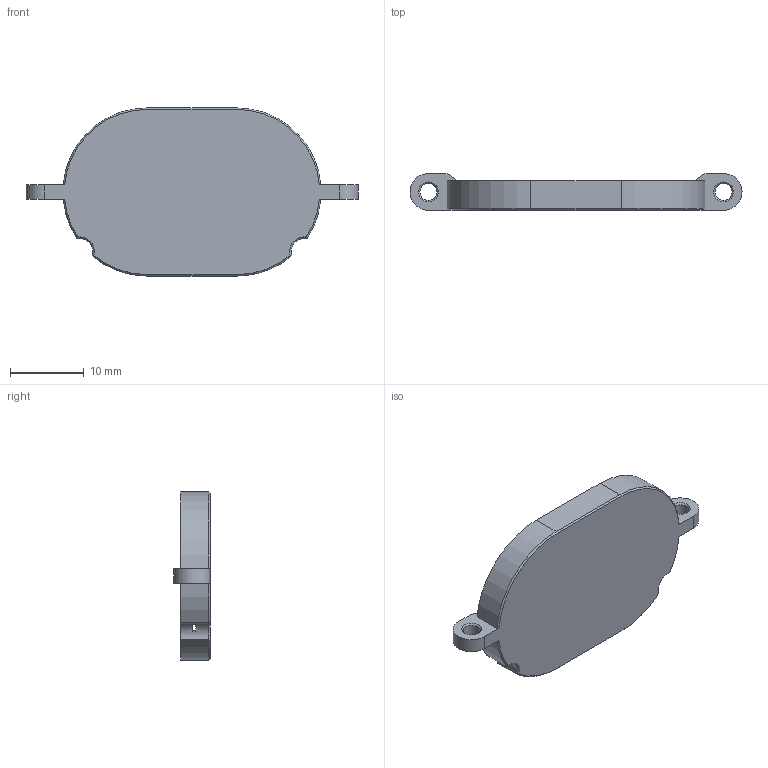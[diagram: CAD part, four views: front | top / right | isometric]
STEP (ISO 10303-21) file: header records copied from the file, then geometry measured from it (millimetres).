
FILE_DESCRIPTION(/* description */ (''),/* implementation_level */ '2;1');
FILE_NAME(/* name */ 'cast_bellow_upper_platform.stp',/* time_stamp */ '2025-08-17T17:07:15+02:00',/* author */ ('MehdiBelhadj'),/* organization */ (''),/* preprocessor_version */ 'ST-DEVELOPER v20.1',/* originating_system */ 'Autodesk Inventor 2026',/* authorisation */ '');
FILE_SCHEMA (('AUTOMOTIVE_DESIGN { 1 0 10303 214 3 1 1 }'));
Length unit declared in the file: millimetre
Products named in the file (1): balg_plattform_zu
Bounding box: 45.03 x 5 x 22.8 mm (x, y, z)
Volume: 1664.7 mm3; surface area: 2145.4 mm2
Topology: 1 solids, 1 shells, 53 faces, 142 edges, 90 vertices
Faces by surface type: plane 21, cylinder 20, cone 12
Full cylindrical faces by diameter (mm): 2.3 x2
Entity records: 1729 total; most frequent: DIRECTION 308, CARTESIAN_POINT 298, ORIENTED_EDGE 284, EDGE_CURVE 142, AXIS2_PLACEMENT_3D 116, VERTEX_POINT 90, LINE 76, VECTOR 76
